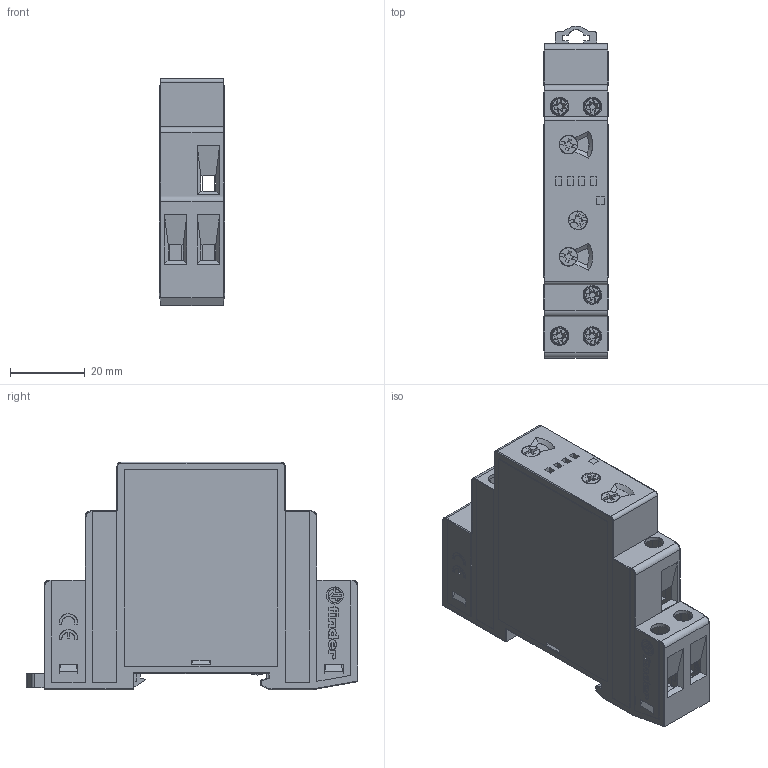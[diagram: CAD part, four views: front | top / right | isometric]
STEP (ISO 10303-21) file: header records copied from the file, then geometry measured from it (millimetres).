
FILE_DESCRIPTION(('STEP AP214'),'2;1');
FILE_NAME('8071.stp','2011-01-27T13:52:59',(''),(''),'2007.1.106','THINKDESIGN','');
FILE_SCHEMA(('AUTOMOTIVE_DESIGN'));
Products named in the file (1): None
Bounding box: 17.5 x 88.85 x 60.8 mm (x, y, z)
Surface area: 14921.2 mm2 (no closed solid volume)
Topology: 0 solids, 0 shells, 838 faces, 4604 edges, 4594 vertices
Faces by surface type: plane 640, bspline 99, cylinder 99
Full cylindrical faces by diameter (mm): 5 x6
Entity records: 49110 total; most frequent: CARTESIAN_POINT 15998, DIRECTION 5571, COMPOSITE_CURVE_SEGMENT 4604, TRIMMED_CURVE 3896, VECTOR 3711, LINE 3711, AXIS2_PLACEMENT_3D 930, OUTER_BOUNDARY_CURVE 838
